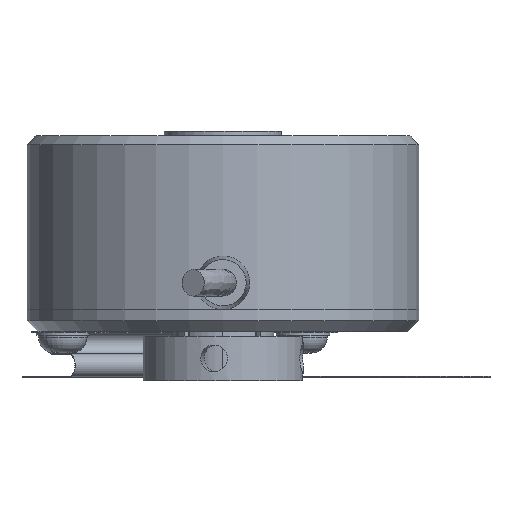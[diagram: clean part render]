
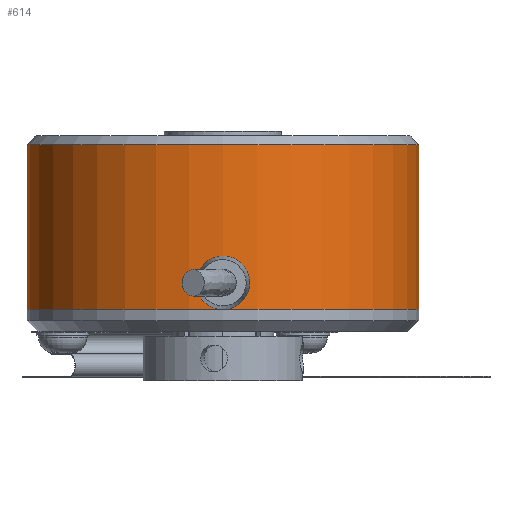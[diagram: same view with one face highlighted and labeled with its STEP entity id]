
A CAD part, front view. The second image highlights one B-rep face of the part: STEP entity #614.
In plain terms, the highlighted cylindrical face has radius 22 mm (diameter 44 mm), a partial arc.
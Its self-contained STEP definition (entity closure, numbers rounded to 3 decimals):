
#132 = CARTESIAN_POINT ( 'NONE',  ( -22., 0., 19.5 ) ) ;
#144 = CARTESIAN_POINT ( 'NONE',  ( -22., 0., 18.5 ) ) ;
#283 = EDGE_CURVE ( 'NONE', #2110, #3927, #4162, .T. ) ;
#292 = DIRECTION ( 'NONE',  ( -1., 0., 0. ) ) ;
#603 = CARTESIAN_POINT ( 'NONE',  ( 22., 0., 18.5 ) ) ;
#614 = ADVANCED_FACE ( 'NONE', ( #3478 ), #5100, .T. ) ;
#624 = VERTEX_POINT ( 'NONE', #4699 ) ;
#850 = CARTESIAN_POINT ( 'NONE',  ( -22., 0., 0. ) ) ;
#903 = DIRECTION ( 'NONE',  ( 0., 0., -1. ) ) ;
#1568 = LINE ( 'NONE', #4828, #1887 ) ;
#1872 = AXIS2_PLACEMENT_3D ( 'NONE', #4547, #903, #2526 ) ;
#1887 = VECTOR ( 'NONE', #2296, 1000. ) ;
#2012 = VECTOR ( 'NONE', #4222, 1000. ) ;
#2064 = CIRCLE ( 'NONE', #4535, 22. ) ;
#2090 = EDGE_CURVE ( 'NONE', #4930, #2110, #3091, .T. ) ;
#2110 = VERTEX_POINT ( 'NONE', #144 ) ;
#2296 = DIRECTION ( 'NONE',  ( 0., 0., -1. ) ) ;
#2471 = ORIENTED_EDGE ( 'NONE', *, *, #4530, .T. ) ;
#2526 = DIRECTION ( 'NONE',  ( 1., 0., 0. ) ) ;
#3086 = ORIENTED_EDGE ( 'NONE', *, *, #3370, .F. ) ;
#3091 = CIRCLE ( 'NONE', #1872, 22. ) ;
#3113 = DIRECTION ( 'NONE',  ( 0., 0., -1. ) ) ;
#3138 = AXIS2_PLACEMENT_3D ( 'NONE', #4569, #3113, #292 ) ;
#3370 = EDGE_CURVE ( 'NONE', #4930, #624, #1568, .T. ) ;
#3478 = FACE_OUTER_BOUND ( 'NONE', #4584, .T. ) ;
#3556 = CARTESIAN_POINT ( 'NONE',  ( 0., 0., 0. ) ) ;
#3927 = VERTEX_POINT ( 'NONE', #850 ) ;
#4162 = LINE ( 'NONE', #132, #2012 ) ;
#4222 = DIRECTION ( 'NONE',  ( 0., 0., -1. ) ) ;
#4357 = DIRECTION ( 'NONE',  ( 1., 0., 0. ) ) ;
#4530 = EDGE_CURVE ( 'NONE', #3927, #624, #2064, .T. ) ;
#4535 = AXIS2_PLACEMENT_3D ( 'NONE', #3556, #5180, #4357 ) ;
#4547 = CARTESIAN_POINT ( 'NONE',  ( 0., 0., 18.5 ) ) ;
#4569 = CARTESIAN_POINT ( 'NONE',  ( 0., 0., 19.5 ) ) ;
#4584 = EDGE_LOOP ( 'NONE', ( #3086, #4665, #5215, #2471 ) ) ;
#4665 = ORIENTED_EDGE ( 'NONE', *, *, #2090, .T. ) ;
#4699 = CARTESIAN_POINT ( 'NONE',  ( 22., 0., 0. ) ) ;
#4828 = CARTESIAN_POINT ( 'NONE',  ( 22., 0., 19.5 ) ) ;
#4930 = VERTEX_POINT ( 'NONE', #603 ) ;
#5100 = CYLINDRICAL_SURFACE ( 'NONE', #3138, 22. ) ;
#5180 = DIRECTION ( 'NONE',  ( 0., 0., 1. ) ) ;
#5215 = ORIENTED_EDGE ( 'NONE', *, *, #283, .T. ) ;
